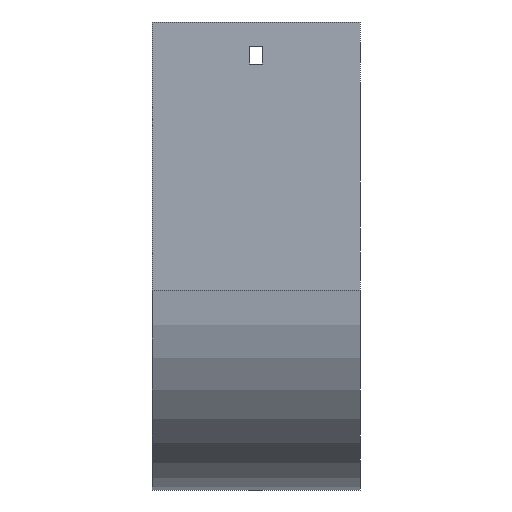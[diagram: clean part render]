
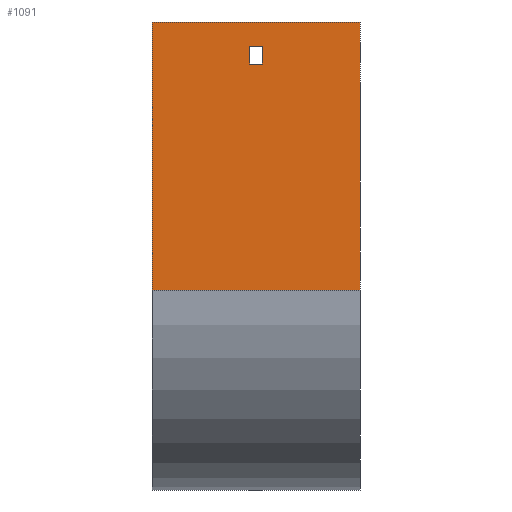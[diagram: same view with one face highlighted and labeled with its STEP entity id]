
A CAD part, front view. The second image highlights one B-rep face of the part: STEP entity #1091.
In plain terms, the highlighted planar face has unit normal (0, -1, 0).
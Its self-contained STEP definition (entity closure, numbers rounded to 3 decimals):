
#5 = LINE ( 'NONE', #616, #837 ) ;
#21 = EDGE_LOOP ( 'NONE', ( #121, #1708, #680, #1245 ) ) ;
#90 = DIRECTION ( 'NONE',  ( 0., 0., 1. ) ) ;
#116 = CARTESIAN_POINT ( 'NONE',  ( 52., -104., -134. ) ) ;
#121 = ORIENTED_EDGE ( 'NONE', *, *, #772, .T. ) ;
#127 = DIRECTION ( 'NONE',  ( 0., 0., -1. ) ) ;
#160 = AXIS2_PLACEMENT_3D ( 'NONE', #1067, #1061, #1201 ) ;
#164 = ORIENTED_EDGE ( 'NONE', *, *, #886, .T. ) ;
#167 = EDGE_CURVE ( 'NONE', #1326, #1159, #725, .T. ) ;
#204 = ORIENTED_EDGE ( 'NONE', *, *, #167, .T. ) ;
#313 = DIRECTION ( 'NONE',  ( 0., 0., -1. ) ) ;
#411 = CARTESIAN_POINT ( 'NONE',  ( 3.25, -104., -12. ) ) ;
#422 = CARTESIAN_POINT ( 'NONE',  ( 52., -104., 0. ) ) ;
#479 = EDGE_CURVE ( 'NONE', #611, #1373, #500, .T. ) ;
#500 = LINE ( 'NONE', #1108, #1237 ) ;
#521 = CARTESIAN_POINT ( 'NONE',  ( 52., -104., -134. ) ) ;
#530 = LINE ( 'NONE', #521, #792 ) ;
#531 = CARTESIAN_POINT ( 'NONE',  ( 52., -104., 0. ) ) ;
#579 = VECTOR ( 'NONE', #1624, 1000. ) ;
#604 = CARTESIAN_POINT ( 'NONE',  ( -3.25, -104., -12. ) ) ;
#611 = VERTEX_POINT ( 'NONE', #116 ) ;
#616 = CARTESIAN_POINT ( 'NONE',  ( -52., -104., -134. ) ) ;
#680 = ORIENTED_EDGE ( 'NONE', *, *, #1279, .F. ) ;
#695 = DIRECTION ( 'NONE',  ( 0., 0., -1. ) ) ;
#725 = LINE ( 'NONE', #1478, #1358 ) ;
#746 = VECTOR ( 'NONE', #981, 1000. ) ;
#772 = EDGE_CURVE ( 'NONE', #1145, #1373, #5, .T. ) ;
#780 = FACE_OUTER_BOUND ( 'NONE', #21, .T. ) ;
#792 = VECTOR ( 'NONE', #695, 1000. ) ;
#837 = VECTOR ( 'NONE', #313, 1000. ) ;
#886 = EDGE_CURVE ( 'NONE', #1159, #1023, #1415, .T. ) ;
#887 = LINE ( 'NONE', #1483, #1354 ) ;
#912 = LINE ( 'NONE', #1667, #1154 ) ;
#981 = DIRECTION ( 'NONE',  ( 1., 0., 0. ) ) ;
#989 = CARTESIAN_POINT ( 'NONE',  ( -3.25, -104., -12. ) ) ;
#1005 = ORIENTED_EDGE ( 'NONE', *, *, #1158, .T. ) ;
#1023 = VERTEX_POINT ( 'NONE', #411 ) ;
#1041 = CARTESIAN_POINT ( 'NONE',  ( -52., -104., -134. ) ) ;
#1061 = DIRECTION ( 'NONE',  ( 0., 1., 0. ) ) ;
#1067 = CARTESIAN_POINT ( 'NONE',  ( 52., -104., -134. ) ) ;
#1074 = DIRECTION ( 'NONE',  ( -1., 0., 0. ) ) ;
#1091 = ADVANCED_FACE ( 'NONE', ( #1353, #780 ), #1659, .F. ) ;
#1108 = CARTESIAN_POINT ( 'NONE',  ( 52., -104., -134. ) ) ;
#1145 = VERTEX_POINT ( 'NONE', #1218 ) ;
#1154 = VECTOR ( 'NONE', #1074, 1000. ) ;
#1158 = EDGE_CURVE ( 'NONE', #1600, #1326, #912, .T. ) ;
#1159 = VERTEX_POINT ( 'NONE', #604 ) ;
#1201 = DIRECTION ( 'NONE',  ( 0., 0., 1. ) ) ;
#1218 = CARTESIAN_POINT ( 'NONE',  ( -52., -104., 0. ) ) ;
#1237 = VECTOR ( 'NONE', #1718, 1000. ) ;
#1245 = ORIENTED_EDGE ( 'NONE', *, *, #1375, .T. ) ;
#1279 = EDGE_CURVE ( 'NONE', #1928, #611, #530, .T. ) ;
#1284 = EDGE_LOOP ( 'NONE', ( #1005, #204, #164, #1942 ) ) ;
#1311 = LINE ( 'NONE', #422, #579 ) ;
#1326 = VERTEX_POINT ( 'NONE', #1918 ) ;
#1353 = FACE_BOUND ( 'NONE', #1284, .T. ) ;
#1354 = VECTOR ( 'NONE', #127, 1000. ) ;
#1358 = VECTOR ( 'NONE', #90, 1000. ) ;
#1373 = VERTEX_POINT ( 'NONE', #1041 ) ;
#1375 = EDGE_CURVE ( 'NONE', #1928, #1145, #1311, .T. ) ;
#1415 = LINE ( 'NONE', #989, #746 ) ;
#1478 = CARTESIAN_POINT ( 'NONE',  ( -3.25, -104., -21. ) ) ;
#1483 = CARTESIAN_POINT ( 'NONE',  ( 3.25, -104., -21. ) ) ;
#1600 = VERTEX_POINT ( 'NONE', #1700 ) ;
#1624 = DIRECTION ( 'NONE',  ( -1., 0., 0. ) ) ;
#1659 = PLANE ( 'NONE',  #160 ) ;
#1667 = CARTESIAN_POINT ( 'NONE',  ( -3.25, -104., -21. ) ) ;
#1700 = CARTESIAN_POINT ( 'NONE',  ( 3.25, -104., -21. ) ) ;
#1708 = ORIENTED_EDGE ( 'NONE', *, *, #479, .F. ) ;
#1718 = DIRECTION ( 'NONE',  ( -1., 0., 0. ) ) ;
#1838 = EDGE_CURVE ( 'NONE', #1023, #1600, #887, .T. ) ;
#1918 = CARTESIAN_POINT ( 'NONE',  ( -3.25, -104., -21. ) ) ;
#1928 = VERTEX_POINT ( 'NONE', #531 ) ;
#1942 = ORIENTED_EDGE ( 'NONE', *, *, #1838, .T. ) ;
